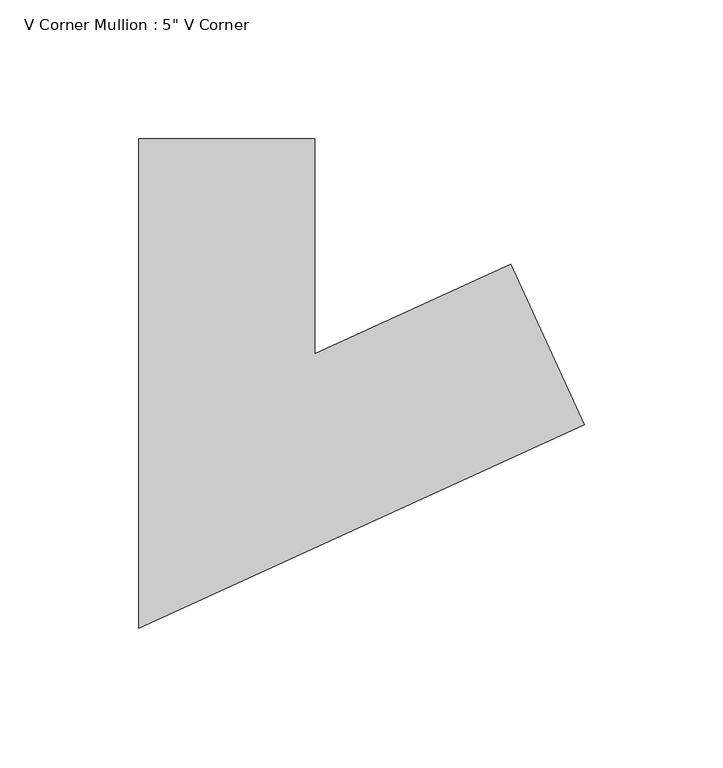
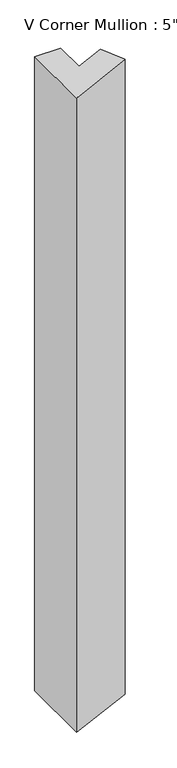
"""IFC4 building model written with IfcOpenShell, lengths in millimetres: member geometry."""

from ifc_helpers import new_model, si_unit, origin, place, context, project, spatial, faceted_brep, source, transform, mapped, element, save


def member_d6eebea3(model_context):
    return source(origin(), model_context, "Body", "Brep", [
        faceted_brep([(87.9205542, -39.5195451, 0.0), (61.49523, 18.2208415, 0.0), (-9.0228811, -14.0523047, 0.0), (-9.0228811, 63.5, 0.0), (-72.5228811, 63.5, 0.0), (-72.5228811, -112.9476953, 0.0), (87.9205542, -39.5195451, -1636.2605187), (61.49523, 18.2208415, -1635.8195294), (-9.0228811, -14.0523047, -1634.6427138), (-9.0228811, 63.5, -1634.6427138), (-72.5228811, 63.5, -1633.5830174), (-72.5228811, -112.9476953, -1633.5830174)], [[[0, 1, 2, 3, 4, 5]], [[1, 0, 6, 7]], [[2, 1, 7, 8]], [[3, 2, 8, 9]], [[4, 3, 9, 10]], [[5, 4, 10, 11]], [[0, 5, 11, 6]], [[6, 11, 10, 9, 8, 7]]]),
    ])


if __name__ == "__main__":
    model = new_model("IFC4")
    model_context = context("Model", 3, world=origin())
    ifc_project = project(units=[si_unit("LENGTHUNIT", "METRE", prefix="MILLI")], contexts=[model_context])
    site = spatial("IfcSite", under=ifc_project)
    building = spatial("IfcBuilding", under=site)
    placement = place(None, origin())
    member_shape = member_d6eebea3(model_context)
    element("IfcMember", 1, ObjectType="V Corner Mullion : 5\" V Corner", at=placement, inside=building, context=model_context, shape_type="MappedRepresentation", body=[
        mapped(member_shape, transform((0.0, 0.0, 0.0), x_axis=(1.0, 0.0, 0.0), y_axis=(0.0, 1.0, 0.0), z_axis=(0.0, 0.0, 1.0))),
    ])
    save(model, "model.ifc")
